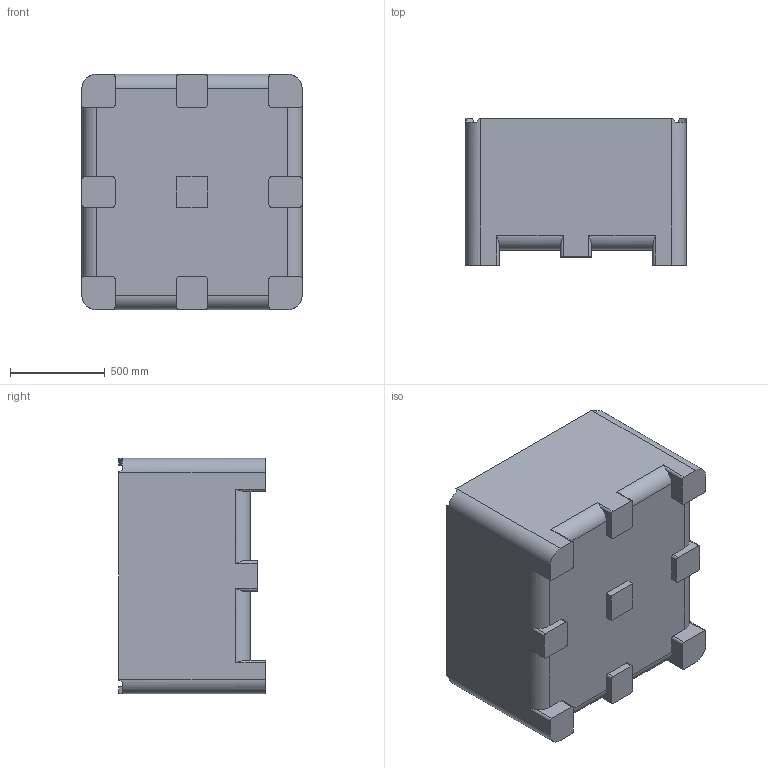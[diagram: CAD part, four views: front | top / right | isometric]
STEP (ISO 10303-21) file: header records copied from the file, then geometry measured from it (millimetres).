
FILE_DESCRIPTION (( 'STEP AP214' ), '1' );
FILE_NAME ('33FV Block Model.STEP', '2013-07-02T17:07:56', ( 'Bryant Conder' ), ( '' ), 'SwSTEP 2.0', 'SolidWorks 2013', '' );
FILE_SCHEMA (( 'AUTOMOTIVE_DESIGN' ));
Length unit declared in the file: millimetre
Products named in the file (1): 33FV Block Model
Bounding box: 1162.05 x 774.7 x 1241.42 mm (x, y, z)
Volume: 185525249.4 mm3; surface area: 9083815.8 mm2
Topology: 1 solids, 1 shells, 111 faces, 316 edges, 204 vertices
Faces by surface type: plane 59, cylinder 48, sphere 4
Entity records: 3940 total; most frequent: CARTESIAN_POINT 1028, ORIENTED_EDGE 624, DIRECTION 600, EDGE_CURVE 312, AXIS2_PLACEMENT_3D 208, VERTEX_POINT 204, VECTOR 184, LINE 184
